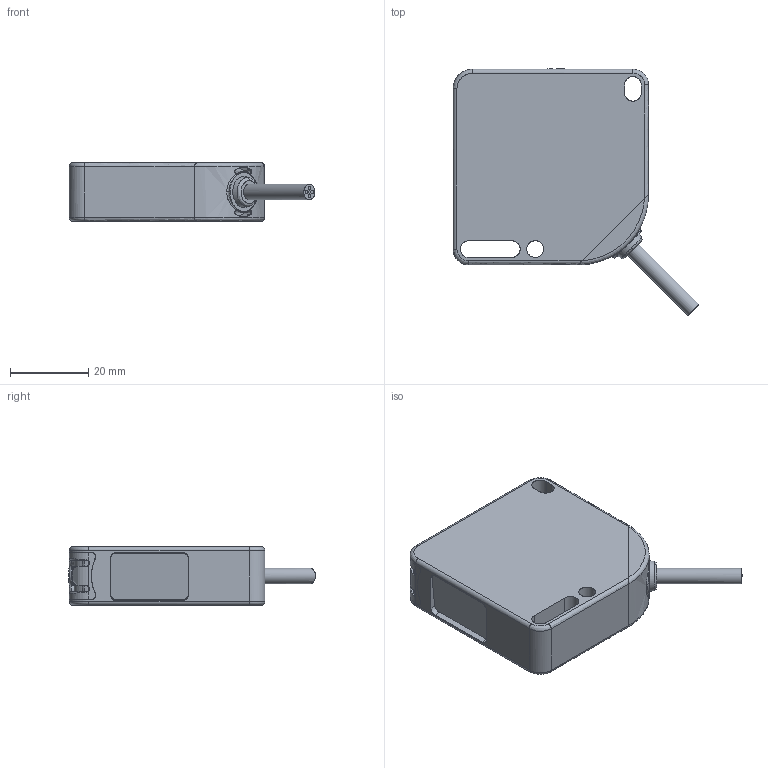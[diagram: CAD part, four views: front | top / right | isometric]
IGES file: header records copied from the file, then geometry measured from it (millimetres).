
Global section: file name: D:\Studi\DSD-0189.igs; preprocessor: I-DEAS 3D IGES Translator 11; date: 20080901.125320; units: millimetre
Bounding box: 62.89 x 63.15 x 15 mm (x, y, z)
Volume: 387.6 mm3; surface area: 11488.2 mm2
Topology: 1 solids, 1 shells, 224 faces, 1082 edges, 996 vertices
Faces by surface type: bspline 224
